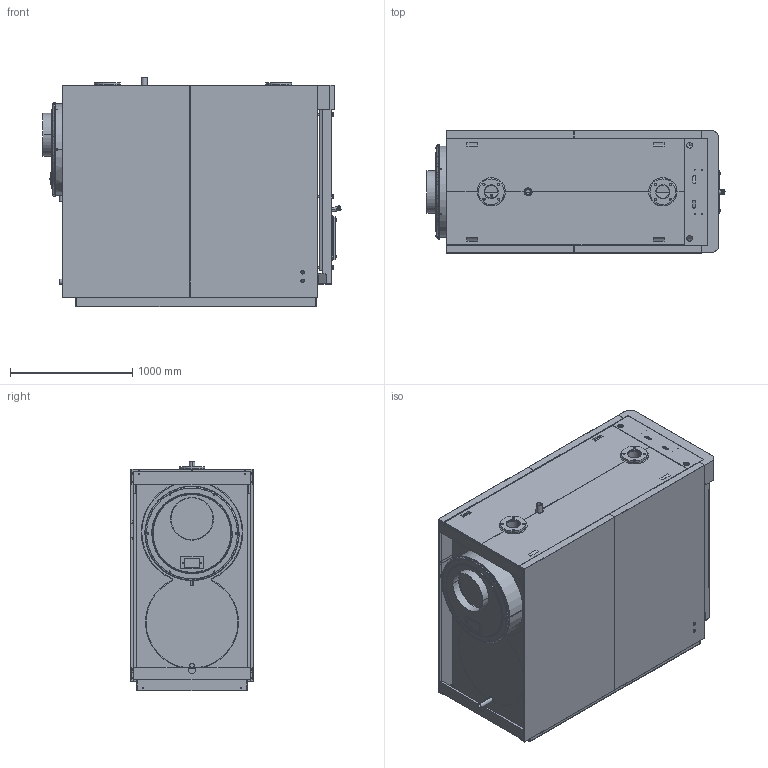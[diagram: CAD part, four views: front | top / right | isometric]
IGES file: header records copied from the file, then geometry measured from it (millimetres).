
Start section: START RECORD GO HERE.
Global section: file name: RTS_736-850 2S.igs; native system: DASSAULT SYSTEMES CATIA V5 R20 - www.3ds.com; preprocessor: CATIA Version 5 Release 20 SP 6 ; author: Riello S.p.A.; organization: RIELLO-IT; date: 20131031.170944; units: millimetre
Bounding box: 2433.08 x 1000 x 1875 mm (x, y, z)
Surface area: 56045607.4 mm2 (no closed solid volume)
Topology: 0 solids, 0 shells, 2817 faces, 13076 edges, 13055 vertices
Faces by surface type: plane 1565, revolution 1196, bspline 56
